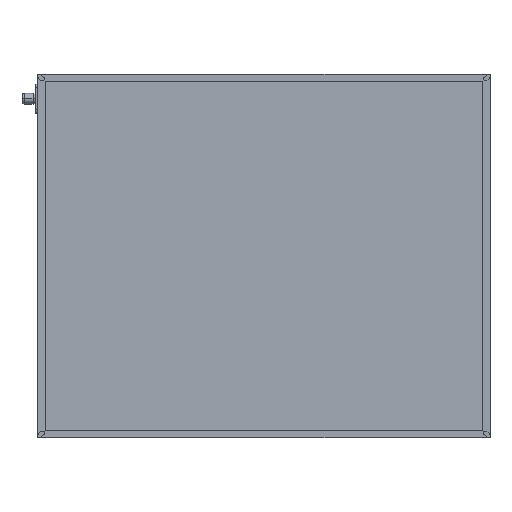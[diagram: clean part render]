
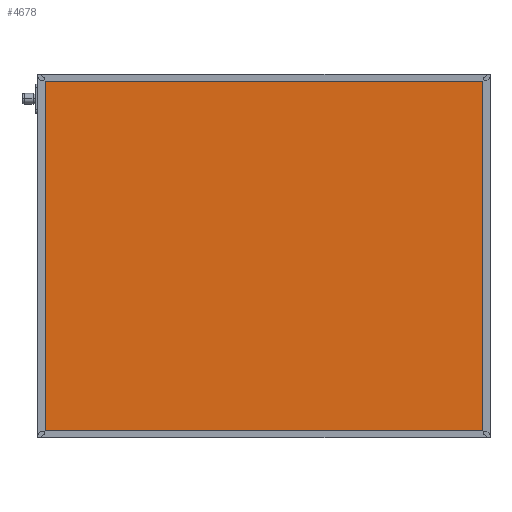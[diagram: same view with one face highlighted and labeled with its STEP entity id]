
A CAD part, top view. The second image highlights one B-rep face of the part: STEP entity #4678.
In plain terms, the highlighted planar face has unit normal (0, 0, 1).
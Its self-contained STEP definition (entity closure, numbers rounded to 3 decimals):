
#907 = ORIENTED_EDGE ( 'NONE', *, *, #913, .T. ) ;
#913 = EDGE_CURVE ( 'NONE', #13850, #17066, #12365, .T. ) ;
#1105 = DIRECTION ( 'NONE',  ( -1., 0., 0. ) ) ;
#1830 = CARTESIAN_POINT ( 'NONE',  ( 0., 4., 41.85 ) ) ;
#2636 = DIRECTION ( 'NONE',  ( 0., -1., 0. ) ) ;
#2694 = VECTOR ( 'NONE', #1105, 1000. ) ;
#2979 = CARTESIAN_POINT ( 'NONE',  ( 496., 4., 41.85 ) ) ;
#4540 = LINE ( 'NONE', #1830, #14304 ) ;
#4678 = ADVANCED_FACE ( 'NONE', ( #16279 ), #6980, .F. ) ;
#4830 = ORIENTED_EDGE ( 'NONE', *, *, #5289, .T. ) ;
#5259 = ORIENTED_EDGE ( 'NONE', *, *, #13697, .T. ) ;
#5289 = EDGE_CURVE ( 'NONE', #16062, #13850, #4540, .T. ) ;
#5747 = CARTESIAN_POINT ( 'NONE',  ( 496., 0., 41.85 ) ) ;
#6214 = LINE ( 'NONE', #14595, #11928 ) ;
#6980 = PLANE ( 'NONE',  #17076 ) ;
#7138 = CARTESIAN_POINT ( 'NONE',  ( 0., 0., 41.85 ) ) ;
#9046 = EDGE_CURVE ( 'NONE', #17066, #10755, #15843, .T. ) ;
#9099 = CARTESIAN_POINT ( 'NONE',  ( 496., 396., 41.85 ) ) ;
#9172 = ORIENTED_EDGE ( 'NONE', *, *, #9046, .T. ) ;
#9454 = EDGE_LOOP ( 'NONE', ( #907, #9172, #5259, #4830 ) ) ;
#9773 = DIRECTION ( 'NONE',  ( 1., 0., 0. ) ) ;
#10755 = VERTEX_POINT ( 'NONE', #14630 ) ;
#11484 = CARTESIAN_POINT ( 'NONE',  ( 4., 4., 41.85 ) ) ;
#11928 = VECTOR ( 'NONE', #2636, 1000. ) ;
#12282 = DIRECTION ( 'NONE',  ( -1., 0., 0. ) ) ;
#12365 = LINE ( 'NONE', #5747, #12685 ) ;
#12540 = DIRECTION ( 'NONE',  ( 0., 1., 0. ) ) ;
#12685 = VECTOR ( 'NONE', #12540, 1000. ) ;
#13697 = EDGE_CURVE ( 'NONE', #10755, #16062, #6214, .T. ) ;
#13850 = VERTEX_POINT ( 'NONE', #2979 ) ;
#14304 = VECTOR ( 'NONE', #9773, 1000. ) ;
#14595 = CARTESIAN_POINT ( 'NONE',  ( 4., 0., 41.85 ) ) ;
#14630 = CARTESIAN_POINT ( 'NONE',  ( 4., 396., 41.85 ) ) ;
#15843 = LINE ( 'NONE', #16865, #2694 ) ;
#16062 = VERTEX_POINT ( 'NONE', #11484 ) ;
#16279 = FACE_OUTER_BOUND ( 'NONE', #9454, .T. ) ;
#16530 = DIRECTION ( 'NONE',  ( 0., 0., -1. ) ) ;
#16865 = CARTESIAN_POINT ( 'NONE',  ( 0., 396., 41.85 ) ) ;
#17066 = VERTEX_POINT ( 'NONE', #9099 ) ;
#17076 = AXIS2_PLACEMENT_3D ( 'NONE', #7138, #16530, #12282 ) ;
